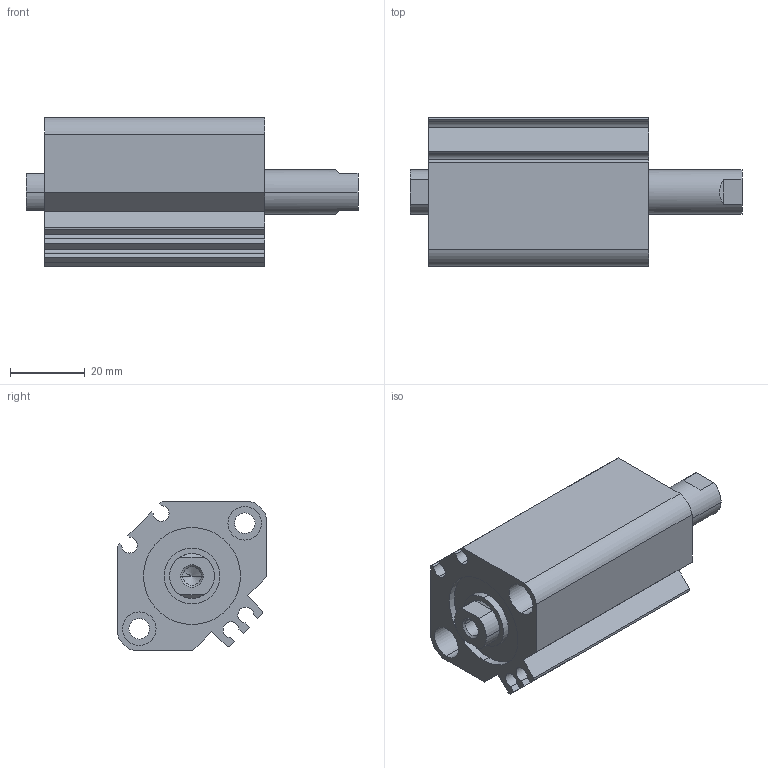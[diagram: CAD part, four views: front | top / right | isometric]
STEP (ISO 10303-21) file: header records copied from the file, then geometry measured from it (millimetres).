
FILE_DESCRIPTION (( 'STEP AP203' ), '1' );
FILE_NAME ('CCMB25-20F-P.STEP', '2020-08-05T11:09:25', ( '' ), ( '' ), 'SwSTEP 2.0', 'SolidWorks 2019', '' );
FILE_SCHEMA (( 'CONFIG_CONTROL_DESIGN' ));
Length unit declared in the file: millimetre
Products named in the file (1): CCMB25-20F-P
Bounding box: 89 x 40 x 40 mm (x, y, z)
Volume: 68912.3 mm3; surface area: 26279.1 mm2
Topology: 2 solids, 2 shells, 114 faces, 276 edges, 178 vertices
Faces by surface type: cylinder 52, plane 50, cone 12
Entity records: 3419 total; most frequent: DIRECTION 614, CARTESIAN_POINT 577, ORIENTED_EDGE 544, EDGE_CURVE 272, AXIS2_PLACEMENT_3D 231, VERTEX_POINT 178, LINE 152, VECTOR 152
